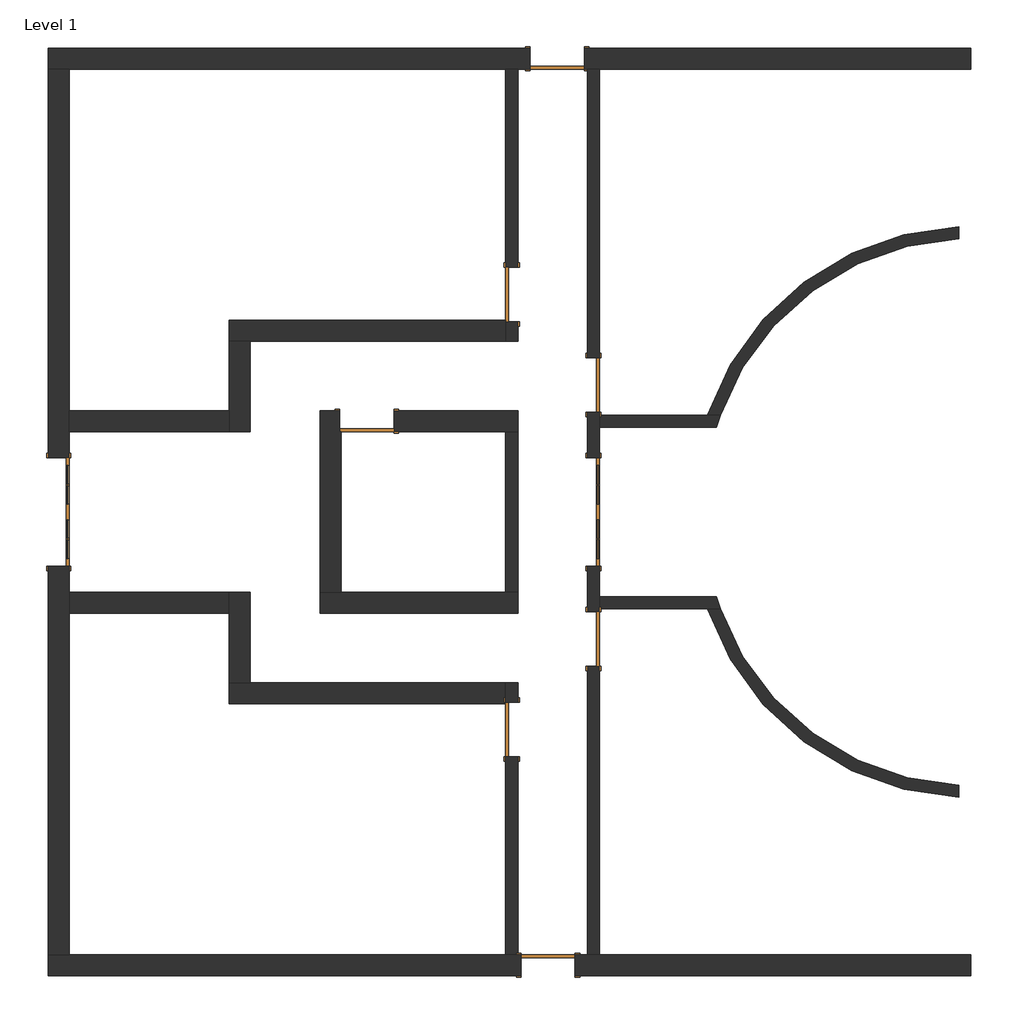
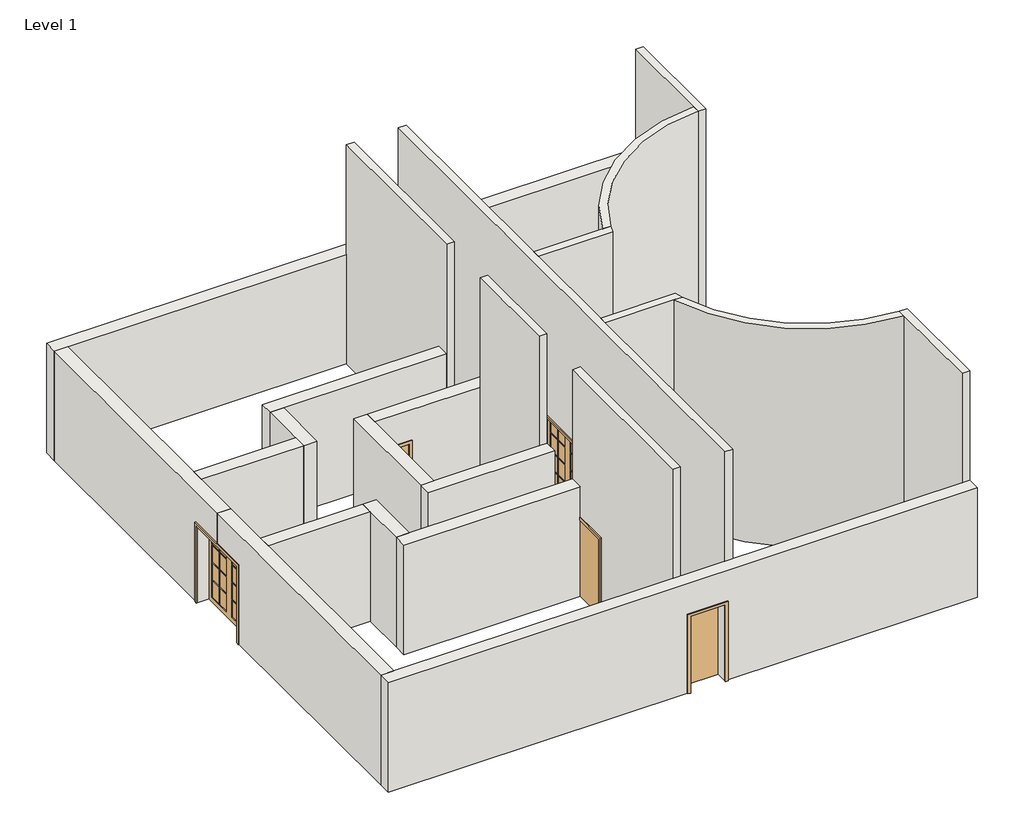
# One storey: 23 walls, 9 doors.
"""IFC4 building model written with IfcOpenShell, lengths in millimetres."""

from ifc_helpers import new_model, si_unit, point, frame, frame_2d, origin, origin_with_axes, place, context, project, spatial, polyline, circle_curve, trimmed, segment, composite_curve, outline, extrude, faceted_brep, transform, mapped, element, save
from ifc_brep_helpers import plane_surface, revolved_surface, advanced_brep
from components import door_62197d2a, door_0a477ef8, door_719f80de, door_54dd4da4, door_cc5399a4, door_632be17d

model = new_model("IFC4")

# Units and contexts
model_context = context("Model", 3, world=origin())
ifc_project = project(units=[si_unit("LENGTHUNIT", "METRE", prefix="MILLI")], contexts=[model_context])

# Site, building, storey
site = spatial("IfcSite", under=ifc_project)
building = spatial("IfcBuilding", under=site)
storey = spatial("IfcBuildingStorey", under=building, Name="Level 1", Elevation=0.0)

# Doors
placement = place(None, origin())
door_shape = door_62197d2a(model_context)
element("IfcDoor", 1, ObjectType="Double-Glass 2 : 72\" x 84\"", at=placement, inside=storey, context=model_context, shape_type="MappedRepresentation", body=[
    mapped(door_shape, transform((-6417.9006715, 3652.0803574, 0.0), x_axis=(0.0, -1.0, 0.0), y_axis=(1.0, 0.0, 0.0), z_axis=(0.0, 0.0, 1.0))),
])
door_2_shape = door_0a477ef8(model_context)
element("IfcDoor", 2, ObjectType="Double-Glass 2 : 72\" x 84\"", at=placement, inside=storey, context=model_context, shape_type="MappedRepresentation", body=[
    mapped(door_2_shape, transform((-15409.5006715, 3652.0803574, 0.0), x_axis=(0.0, -1.0, 0.0), y_axis=(1.0, 0.0, 0.0), z_axis=(0.0, 0.0, 1.0))),
])
door_3_shape = door_719f80de(model_context)
element("IfcDoor", 3, ObjectType="Single-Flush : 36\" x 84\"", at=placement, inside=storey, context=model_context, shape_type="MappedRepresentation", body=[
    mapped(door_3_shape, transform((-7789.5006715, 7309.6803574, 0.0), x_axis=(0.0, -1.0, 0.0), y_axis=(1.0, 0.0, 0.0), z_axis=(0.0, 0.0, 1.0))),
])
element("IfcDoor", 4, ObjectType="Single-Flush : 36\" x 84\"", at=placement, inside=storey, context=model_context, shape_type="MappedRepresentation", body=[
    mapped(door_3_shape, transform((-6417.9006715, 1518.4803574, 0.0), x_axis=(0.0, 1.0, 0.0), y_axis=(-1.0, 0.0, 0.0), z_axis=(0.0, 0.0, 1.0))),
])
door_4_shape = door_54dd4da4(model_context)
element("IfcDoor", 5, ObjectType="Single-Flush : 36\" x 84\"", at=placement, inside=storey, context=model_context, shape_type="MappedRepresentation", body=[
    mapped(door_4_shape, transform((-7789.5006715, -5.5196426, 0.0), x_axis=(0.0, 1.0, 0.0), y_axis=(-1.0, 0.0, 0.0), z_axis=(0.0, 0.0, 1.0))),
])
element("IfcDoor", 6, ObjectType="Single-Flush : 36\" x 84\"", at=placement, inside=storey, context=model_context, shape_type="MappedRepresentation", body=[
    mapped(door_4_shape, transform((-6417.9006715, 5785.6803574, 0.0), x_axis=(0.0, -1.0, 0.0), y_axis=(1.0, 0.0, 0.0), z_axis=(0.0, 0.0, 1.0))),
])
door_5_shape = door_cc5399a4(model_context)
element("IfcDoor", 7, ObjectType="Single-Flush : 36\" x 84\"", at=placement, inside=storey, context=model_context, shape_type="MappedRepresentation", body=[
    mapped(door_5_shape, transform((-7027.5006715, 11272.0803574, 0.0), x_axis=(1.0, 0.0, 0.0), y_axis=(0.0, 1.0, 0.0), z_axis=(0.0, 0.0, 1.0))),
])
element("IfcDoor", 8, ObjectType="Single-Flush : 36\" x 84\"", at=placement, inside=storey, context=model_context, shape_type="MappedRepresentation", body=[
    mapped(door_5_shape, transform((-7179.9006715, -3967.9196426, 0.0), x_axis=(-1.0, 0.0, 0.0), y_axis=(0.0, -1.0, 0.0), z_axis=(0.0, 0.0, 1.0))),
])
door_6_shape = door_632be17d(model_context)
element("IfcDoor", 9, ObjectType="Single-Flush : 36\" x 84\"", at=placement, inside=storey, context=model_context, shape_type="MappedRepresentation", body=[
    mapped(door_6_shape, transform((-10227.9006715, 5176.0803574, 0.0), x_axis=(-1.0, 0.0, 0.0), y_axis=(0.0, -1.0, 0.0), z_axis=(0.0, 0.0, 1.0))),
])

# Walls
element("IfcWall", 10, ObjectType="Exterior - Brick on Mtl. Stud", at=placement, inside=storey, context=model_context, shape_type="Brep", body=[
    faceted_brep([(-6570.3006715, 11095.8678574, 2133.6), (-6570.3006715, 11095.8678574, 0.0), (-6519.5006715, 11095.8678574, 0.0), (-6316.3006715, 11095.8678574, 0.0), (-271.1006715, 11095.8678574, 0.0), (-67.9006715, 11095.8678574, 0.0), (-67.9006715, 11095.8678574, 3048.0), (-15233.2881715, 11095.8678574, 3048.0), (-15585.7131715, 11095.8678574, 3048.0), (-15585.7131715, 11095.8678574, 0.0), (-15233.2881715, 11095.8678574, 0.0), (-7891.1006715, 11095.8678574, 0.0), (-7687.9006715, 11095.8678574, 0.0), (-7484.7006715, 11095.8678574, 0.0), (-7484.7006715, 11095.8678574, 2133.6), (-67.9006715, 11448.2928574, 0.0), (-6570.3006715, 11448.2928574, 0.0), (-6570.3006715, 11448.2928574, 2133.6), (-7484.7006715, 11448.2928574, 2133.6), (-7484.7006715, 11448.2928574, 0.0), (-15585.7131715, 11448.2928574, 0.0), (-15585.7131715, 11448.2928574, 3048.0), (-67.9006715, 11448.2928574, 3048.0)], [[[0, 1, 2, 3, 4, 5, 6, 7, 8, 9, 10, 11, 12, 13, 14]], [[15, 16, 17, 18, 19, 20, 21, 22]], [[5, 4, 3, 2, 1, 16, 15]], [[13, 12, 11, 10, 9, 20, 19]], [[8, 7, 6, 22, 21]], [[6, 5, 15, 22]], [[9, 8, 21, 20]], [[17, 16, 1, 0]], [[18, 17, 0, 14]], [[19, 18, 14, 13]]]),
])
element("IfcWall", 11, ObjectType="Exterior - Brick on Mtl. Stud", at=placement, inside=storey, context=model_context, shape_type="Brep", body=[
    faceted_brep([(-15585.7131715, 3652.0803574, 3048.0), (-15585.7131715, 11095.8678574, 3048.0), (-15585.7131715, 11095.8678574, 0.0), (-15585.7131715, 4566.4803574, 0.0), (-15585.7131715, 4566.4803574, 2133.6), (-15585.7131715, 3652.0803574, 2133.6), (-15233.2881715, 11095.8678574, 3048.0), (-15233.2881715, 5352.2928574, 3048.0), (-15233.2881715, 4999.8678574, 3048.0), (-15233.2881715, 3652.0803574, 3048.0), (-15233.2881715, 3652.0803574, 2133.6), (-15233.2881715, 4566.4803574, 2133.6), (-15233.2881715, 4566.4803574, 0.0), (-15233.2881715, 4999.8678574, 0.0), (-15233.2881715, 5352.2928574, 0.0), (-15233.2881715, 11095.8678574, 0.0)], [[[0, 1, 2, 3, 4, 5]], [[6, 7, 8, 9, 10, 11, 12, 13, 14, 15]], [[2, 15, 14, 13, 12, 3]], [[9, 0, 5, 10]], [[1, 0, 9, 8, 7, 6]], [[2, 1, 6, 15]], [[4, 11, 10, 5]], [[11, 4, 3, 12]]]),
])
element("IfcWall", 12, ObjectType="Exterior - Brick on Mtl. Stud", at=placement, inside=storey, context=model_context, shape_type="Brep", body=[
    faceted_brep([(-7891.1006715, 6876.2928574, 0.0), (-12537.7131715, 6876.2928574, 0.0), (-12537.7131715, 6876.2928574, 3048.0), (-7891.1006715, 6876.2928574, 3048.0), (-7891.1006715, 6523.8678574, 0.0), (-7891.1006715, 6523.8678574, 3048.0), (-12185.2881715, 6523.8678574, 3048.0), (-12537.7131715, 6523.8678574, 3048.0), (-12537.7131715, 6523.8678574, 0.0), (-12185.2881715, 6523.8678574, 0.0), (-7891.1006715, 6852.4803574, 0.0)], [[[0, 1, 2, 3]], [[4, 5, 6, 7, 8, 9]], [[1, 0, 10, 4, 9, 8]], [[3, 2, 7, 6, 5]], [[2, 1, 8, 7]], [[0, 3, 5, 4, 10]]]),
])
element("IfcWall", 13, ObjectType="Exterior - Brick on Mtl. Stud", at=placement, inside=storey, context=model_context, shape_type="Brep", body=[
    faceted_brep([(-12537.7131715, 6523.8678574, 0.0), (-12537.7131715, 5352.2928574, 0.0), (-12537.7131715, 4999.8678574, 0.0), (-12537.7131715, 4999.8678574, 3048.0), (-12537.7131715, 5352.2928574, 3048.0), (-12537.7131715, 6523.8678574, 3048.0), (-12185.2881715, 6523.8678574, 0.0), (-12185.2881715, 6523.8678574, 3048.0), (-12185.2881715, 4999.8678574, 3048.0), (-12185.2881715, 4999.8678574, 0.0)], [[[0, 1, 2, 3, 4, 5]], [[6, 7, 8, 9]], [[2, 1, 0, 6, 9]], [[5, 4, 3, 8, 7]], [[3, 2, 9, 8]], [[0, 5, 7, 6]]]),
])
element("IfcWall", 14, ObjectType="Exterior - Brick on Mtl. Stud", at=placement, inside=storey, context=model_context, shape_type="SweptSolid", body=[
    extrude(outline(polyline([(-15233.2881715, 5352.2928574), (-12537.7131715, 5352.2928574), (-12537.7131715, 4999.8678574), (-15233.2881715, 4999.8678574), (-15233.2881715, 5352.2928574)])), origin_with_axes(), (0.0, 0.0, 1.0), 3048.0),
])
element("IfcWall", 15, ObjectType="Exterior - Brick on Mtl. Stud", at=placement, inside=storey, context=model_context, shape_type="Brep", body=[
    faceted_brep([(-15585.7131715, -4144.1321426, 0.0), (-7637.1006715, -4144.1321426, 0.0), (-7637.1006715, -4144.1321426, 2133.6), (-6722.7006715, -4144.1321426, 2133.6), (-6722.7006715, -4144.1321426, 0.0), (-67.9006715, -4144.1321426, 0.0), (-67.9006715, -4144.1321426, 3048.0), (-15585.7131715, -4144.1321426, 3048.0), (-7637.1006715, -3791.7071426, 2133.6), (-7637.1006715, -3791.7071426, 0.0), (-7687.9006715, -3791.7071426, 0.0), (-7891.1006715, -3791.7071426, 0.0), (-15233.2881715, -3791.7071426, 0.0), (-15585.7131715, -3791.7071426, 0.0), (-15585.7131715, -3791.7071426, 3048.0), (-15233.2881715, -3791.7071426, 3048.0), (-67.9006715, -3791.7071426, 3048.0), (-67.9006715, -3791.7071426, 0.0), (-271.1006715, -3791.7071426, 0.0), (-6316.3006715, -3791.7071426, 0.0), (-6519.5006715, -3791.7071426, 0.0), (-6722.7006715, -3791.7071426, 0.0), (-6722.7006715, -3791.7071426, 2133.6)], [[[0, 1, 2, 3, 4, 5, 6, 7]], [[8, 9, 10, 11, 12, 13, 14, 15, 16, 17, 18, 19, 20, 21, 22]], [[13, 12, 11, 10, 9, 1, 0]], [[21, 20, 19, 18, 17, 5, 4]], [[7, 6, 16, 15, 14]], [[6, 5, 17, 16]], [[0, 7, 14, 13]], [[2, 1, 9, 8]], [[3, 2, 8, 22]], [[4, 3, 22, 21]]]),
])
element("IfcWall", 16, ObjectType="Exterior - Brick on Mtl. Stud", at=placement, inside=storey, context=model_context, shape_type="Brep", body=[
    faceted_brep([(-7891.1006715, 780.2928574, 0.0), (-12185.2881715, 780.2928574, 0.0), (-12537.7131715, 780.2928574, 0.0), (-12537.7131715, 780.2928574, 3048.0), (-12185.2881715, 780.2928574, 3048.0), (-7891.1006715, 780.2928574, 3048.0), (-7891.1006715, 427.8678574, 0.0), (-7891.1006715, 427.8678574, 3048.0), (-12537.7131715, 427.8678574, 3048.0), (-12537.7131715, 427.8678574, 0.0), (-7891.1006715, 451.6803574, 0.0)], [[[0, 1, 2, 3, 4, 5]], [[6, 7, 8, 9]], [[2, 1, 0, 10, 6, 9]], [[5, 4, 3, 8, 7]], [[3, 2, 9, 8]], [[0, 5, 7, 6, 10]]]),
])
element("IfcWall", 17, ObjectType="Exterior - Brick on Mtl. Stud", at=placement, inside=storey, context=model_context, shape_type="Brep", body=[
    faceted_brep([(-12185.2881715, 780.2928574, 0.0), (-12185.2881715, 2304.2928574, 0.0), (-12185.2881715, 2304.2928574, 3048.0), (-12185.2881715, 780.2928574, 3048.0), (-12537.7131715, 780.2928574, 0.0), (-12537.7131715, 780.2928574, 3048.0), (-12537.7131715, 1951.8678574, 3048.0), (-12537.7131715, 2304.2928574, 3048.0), (-12537.7131715, 2304.2928574, 0.0), (-12537.7131715, 1951.8678574, 0.0)], [[[0, 1, 2, 3]], [[4, 5, 6, 7, 8, 9]], [[1, 0, 4, 9, 8]], [[3, 2, 7, 6, 5]], [[2, 1, 8, 7]], [[0, 3, 5, 4]]]),
])
element("IfcWall", 18, ObjectType="Exterior - Brick on Mtl. Stud", at=placement, inside=storey, context=model_context, shape_type="SweptSolid", body=[
    extrude(outline(polyline([(-15233.2881715, 2304.2928574), (-12537.7131715, 2304.2928574), (-12537.7131715, 1951.8678574), (-15233.2881715, 1951.8678574), (-15233.2881715, 2304.2928574)])), origin_with_axes(), (0.0, 0.0, 1.0), 3048.0),
])
element("IfcWall", 19, ObjectType="Exterior - Brick on Mtl. Stud", at=placement, inside=storey, context=model_context, shape_type="Brep", body=[
    faceted_brep([(-15233.2881715, 3652.0803574, 3048.0), (-15233.2881715, 2304.2928574, 3048.0), (-15233.2881715, 1951.8678574, 3048.0), (-15233.2881715, -3791.7071426, 3048.0), (-15233.2881715, -3791.7071426, 0.0), (-15233.2881715, 1951.8678574, 0.0), (-15233.2881715, 2304.2928574, 0.0), (-15233.2881715, 2737.6803574, 0.0), (-15233.2881715, 2737.6803574, 2133.6), (-15233.2881715, 3652.0803574, 2133.6), (-15585.7131715, -3791.7071426, 3048.0), (-15585.7131715, 3652.0803574, 3048.0), (-15585.7131715, 3652.0803574, 2133.6), (-15585.7131715, 2737.6803574, 2133.6), (-15585.7131715, 2737.6803574, 0.0), (-15585.7131715, -3791.7071426, 0.0)], [[[0, 1, 2, 3, 4, 5, 6, 7, 8, 9]], [[10, 11, 12, 13, 14, 15]], [[4, 15, 14, 7, 6, 5]], [[11, 0, 9, 12]], [[3, 2, 1, 0, 11, 10]], [[4, 3, 10, 15]], [[13, 8, 7, 14]], [[8, 13, 12, 9]]]),
])
element("IfcWall", 20, ObjectType="Exterior - Brick on Mtl. Stud", at=placement, inside=storey, context=model_context, shape_type="Brep", body=[
    faceted_brep([(-10661.2881715, 5352.2928574, 3048.0), (-7687.9006715, 5352.2928574, 3048.0), (-7687.9006715, 5352.2928574, 0.0), (-9770.7006715, 5352.2928574, 0.0), (-9770.7006715, 5352.2928574, 2133.6), (-10661.2881715, 5352.2928574, 2133.6), (-7687.9006715, 4999.8678574, 3048.0), (-10661.2881715, 4999.8678574, 3048.0), (-10661.2881715, 4999.8678574, 2133.6), (-9770.7006715, 4999.8678574, 2133.6), (-9770.7006715, 4999.8678574, 0.0), (-7891.1006715, 4999.8678574, 0.0), (-7687.9006715, 4999.8678574, 0.0)], [[[0, 1, 2, 3, 4, 5]], [[6, 7, 8, 9, 10, 11, 12]], [[2, 12, 11, 10, 3]], [[1, 0, 7, 6]], [[2, 1, 6, 12]], [[7, 0, 5, 8]], [[4, 9, 8, 5]], [[9, 4, 3, 10]]]),
])
element("IfcWall", 21, ObjectType="Exterior - Brick on Mtl. Stud", at=placement, inside=storey, context=model_context, shape_type="Brep", body=[
    faceted_brep([(-10661.2881715, 5352.2928574, 3048.0), (-10661.2881715, 4999.8678574, 3048.0), (-10661.2881715, 2304.2928574, 3048.0), (-10661.2881715, 2304.2928574, 0.0), (-10661.2881715, 4999.8678574, 0.0), (-10661.2881715, 4999.8678574, 2133.6), (-10661.2881715, 5352.2928574, 2133.6), (-11013.7131715, 5352.2928574, 0.0), (-11013.7131715, 2304.2928574, 0.0), (-11013.7131715, 2304.2928574, 3048.0), (-11013.7131715, 5352.2928574, 3048.0), (-10685.1006715, 5352.2928574, 0.0), (-10685.1006715, 4999.8678574, 0.0), (-10685.1006715, 5352.2928574, 2133.6), (-10685.1006715, 4999.8678574, 2133.6)], [[[0, 1, 2, 3, 4, 5, 6]], [[7, 8, 9, 10]], [[8, 7, 11, 12, 4, 3]], [[2, 1, 0, 10, 9]], [[7, 10, 0, 6, 13, 11]], [[3, 2, 9, 8]], [[12, 14, 5, 4]], [[14, 12, 11, 13]], [[14, 13, 6, 5]]]),
])
element("IfcWall", 22, ObjectType="Exterior - Brick on Mtl. Stud", at=placement, inside=storey, context=model_context, shape_type="Brep", body=[
    faceted_brep([(-7687.9006715, 2304.2928574, 0.0), (-7891.1006715, 2304.2928574, 0.0), (-10661.2881715, 2304.2928574, 0.0), (-11013.7131715, 2304.2928574, 0.0), (-11013.7131715, 2304.2928574, 3048.0), (-10661.2881715, 2304.2928574, 3048.0), (-7687.9006715, 2304.2928574, 3048.0), (-7687.9006715, 1951.8678574, 0.0), (-7687.9006715, 1951.8678574, 3048.0), (-11013.7131715, 1951.8678574, 3048.0), (-11013.7131715, 1951.8678574, 0.0)], [[[0, 1, 2, 3, 4, 5, 6]], [[7, 8, 9, 10]], [[3, 2, 1, 0, 7, 10]], [[6, 5, 4, 9, 8]], [[0, 6, 8, 7]], [[4, 3, 10, 9]]]),
])
element("IfcWall", 23, ObjectType="Generic - 8\"", at=placement, inside=storey, context=model_context, shape_type="AdvancedBrep", body=[
    advanced_brep(
    [(-271.1006715, 11095.8678574, 0.0), (-271.1006715, 8443.2552344, 0.0), (-271.1006715, 8239.8673202, 0.0), (-271.1006715, 8239.8673202, 6096.0), (-271.1006715, 8443.2552344, 6096.0), (-271.1006715, 11095.8678574, 6096.0), (-67.9006715, 11095.8678574, 0.0), (-67.9006715, 11095.8678574, 3048.0), (-67.9006715, 11095.8678574, 6096.0), (-67.9006715, 8244.1803284, 6096.0), (-67.9006715, 8244.1803284, 0.0)],
    [
        (0, 1),
        (1, 2),
        (2, 3),
        (3, 4),
        (4, 5),
        (5, 0),
        (6, 7),
        (7, 8),
        (8, 9),
        (9, 10),
        (10, 6),
        (0, 6),
        (10, 2, circle_curve(frame((-74.6603731, 3773.7854391, 0.0), z_axis=(0.0, 0.0, 1.0), x_axis=(1.0, 0.0, 0.0)), 4470.4)),
        (3, 9, circle_curve(frame((-74.6603731, 3773.7854391, 6096.0), z_axis=(0.0, 0.0, -1.0), x_axis=(1.0, 0.0, 0.0)), 4470.4)),
        (8, 5),
    ],
    [
        plane_surface(frame((-271.1006715, 11272.0803574, 0.0), z_axis=(-1.0, 0.0, 0.0), x_axis=(0.0, -1.0, 0.0))),
        plane_surface(frame((-67.9006715, 11272.0803574, 0.0), z_axis=(1.0, 0.0, 0.0), x_axis=(0.0, 1.0, 0.0))),
        plane_surface(frame((-271.1006715, 11272.0803574, 0.0), z_axis=(0.0, 0.0, -1.0), x_axis=(1.0, 0.0, 0.0))),
        plane_surface(frame((-271.1006715, 8344.8016628, 6096.0), z_axis=(0.0, 0.0, 1.0), x_axis=(1.0, 0.0, 0.0))),
        revolved_surface(polyline([(4395.7396269, 3773.7854391, 0.0), (4395.7396269, 3773.7854391, 6096.0)]), (-74.6603731, 3773.7854391, 0.0), (0.0, 0.0, -1.0)),
        plane_surface(frame((-15409.5006715, 11095.8678574, 0.0), z_axis=(0.0, 1.0, 0.0), x_axis=(1.0, 0.0, 0.0))),
    ],
    [
        (0, [[1, 2, 3, 4, 5, 6]]),
        (1, [[7, 8, 9, 10, 11]]),
        (2, [[-2, -1, 12, -11, 13]]),
        (3, [[-5, -4, 14, -9, 15]]),
        (4, [[-3, -13, -10, -14]]),
        (5, [[-6, -15, -8, -7, -12]]),
    ],
),
])
element("IfcWall", 24, ObjectType="Generic - 8\"", at=placement, inside=storey, context=model_context, shape_type="Brep", body=[
    faceted_brep([(-7891.1006715, 6852.4803574, 2133.6), (-7891.1006715, 6852.4803574, 0.0), (-7891.1006715, 6523.8678574, 0.0), (-7891.1006715, 6523.8678574, 3048.0), (-7891.1006715, 6523.8678574, 6096.0), (-7891.1006715, 11095.8678574, 6096.0), (-7891.1006715, 11095.8678574, 0.0), (-7891.1006715, 7766.8803574, 0.0), (-7891.1006715, 7766.8803574, 2133.6), (-7687.9006715, 6523.8678574, 0.0), (-7687.9006715, 6852.4803574, 0.0), (-7687.9006715, 6852.4803574, 2133.6), (-7687.9006715, 7766.8803574, 2133.6), (-7687.9006715, 7766.8803574, 0.0), (-7687.9006715, 11095.8678574, 0.0), (-7687.9006715, 11095.8678574, 6096.0), (-7687.9006715, 6523.8678574, 6096.0)], [[[0, 1, 2, 3, 4, 5, 6, 7, 8]], [[9, 10, 11, 12, 13, 14, 15, 16]], [[2, 1, 10, 9]], [[7, 6, 14, 13]], [[5, 4, 16, 15]], [[4, 3, 2, 9, 16]], [[6, 5, 15, 14]], [[11, 10, 1, 0]], [[12, 11, 0, 8]], [[13, 12, 8, 7]]]),
])
element("IfcWall", 25, ObjectType="Generic - 8\"", at=placement, inside=storey, context=model_context, shape_type="AdvancedBrep", body=[
    advanced_brep(
    [(-4284.5031534, 5277.6803574, 0.0), (-4499.6843317, 5277.6803574, 0.0), (-6316.3006715, 5277.6803574, 0.0), (-6316.3006715, 5277.6803574, 6096.0), (-4499.6843317, 5277.6803574, 6096.0), (-4284.5031534, 5277.6803574, 6096.0), (-4351.6533459, 5074.4803574, 0.0), (-4351.6533459, 5074.4803574, 6096.0), (-6316.3006715, 5074.4803574, 6096.0), (-6316.3006715, 5074.4803574, 0.0)],
    [
        (0, 1),
        (1, 2),
        (2, 3),
        (3, 4),
        (4, 5),
        (5, 0),
        (6, 7),
        (7, 8),
        (8, 9),
        (9, 6),
        (0, 6, circle_curve(frame((-74.6603731, 3773.7854391, 0.0), z_axis=(0.0, 0.0, 1.0), x_axis=(1.0, 0.0, 0.0)), 4470.4)),
        (9, 2),
        (3, 8),
        (7, 5, circle_curve(frame((-74.6603731, 3773.7854391, 6096.0), z_axis=(0.0, 0.0, -1.0), x_axis=(1.0, 0.0, 0.0)), 4470.4)),
    ],
    [
        plane_surface(frame((-3369.9006715, 5277.6803574, 0.0), z_axis=(0.0, 1.0, 0.0), x_axis=(-1.0, 0.0, 0.0))),
        plane_surface(frame((-3369.9006715, 5074.4803574, 0.0), z_axis=(0.0, -1.0, 0.0), x_axis=(1.0, 0.0, 0.0))),
        plane_surface(frame((-4426.2983362, 5277.6803574, 0.0), z_axis=(0.0, 0.0, -1.0), x_axis=(0.0, -1.0, 0.0))),
        plane_surface(frame((-6417.9006715, 5277.6803574, 6096.0), z_axis=(0.0, 0.0, 1.0), x_axis=(0.0, -1.0, 0.0))),
        revolved_surface(polyline([(4395.7396269, 3773.7854391, 0.0), (4395.7396269, 3773.7854391, 6096.0)]), (-74.6603731, 3773.7854391, 0.0), (0.0, 0.0, -1.0)),
        plane_surface(frame((-6316.3006715, -3967.9196426, 0.0), z_axis=(-1.0, 0.0, 0.0), x_axis=(0.0, 1.0, 0.0))),
    ],
    [
        (0, [[1, 2, 3, 4, 5, 6]]),
        (1, [[7, 8, 9, 10]]),
        (2, [[-2, -1, 11, -10, 12]]),
        (3, [[-5, -4, 13, -8, 14]]),
        (4, [[-6, -14, -7, -11]]),
        (5, [[-3, -12, -9, -13]]),
    ],
),
])
element("IfcWall", 26, ObjectType="Generic - 8\"", at=placement, inside=storey, context=model_context, shape_type="AdvancedBrep", body=[
    advanced_brep(
    [(-67.9006715, -3791.7071426, 0.0), (-67.9006715, -940.0196137, 0.0), (-67.9006715, -940.0196137, 6096.0), (-67.9006715, -3791.7071426, 6096.0), (-67.9006715, -3791.7071426, 3048.0), (-271.1006715, -3791.7071426, 0.0), (-271.1006715, -3791.7071426, 6096.0), (-271.1006715, -1139.0945197, 6096.0), (-271.1006715, -935.7066055, 6096.0), (-271.1006715, -935.7066055, 0.0), (-271.1006715, -1139.0945197, 0.0)],
    [
        (0, 1),
        (1, 2),
        (2, 3),
        (3, 4),
        (4, 0),
        (5, 6),
        (6, 7),
        (7, 8),
        (8, 9),
        (9, 10),
        (10, 5),
        (0, 5),
        (9, 1, circle_curve(frame((-74.6603731, 3530.3752756, 0.0), z_axis=(0.0, 0.0, 1.0), x_axis=(1.0, 0.0, 0.0)), 4470.4)),
        (2, 8, circle_curve(frame((-74.6603731, 3530.3752756, 6096.0), z_axis=(0.0, 0.0, -1.0), x_axis=(1.0, 0.0, 0.0)), 4470.4)),
        (6, 3),
    ],
    [
        plane_surface(frame((-67.9006715, -3967.9196426, 0.0), z_axis=(1.0, 0.0, 0.0), x_axis=(0.0, 1.0, 0.0))),
        plane_surface(frame((-271.1006715, -3967.9196426, 0.0), z_axis=(-1.0, 0.0, 0.0), x_axis=(0.0, -1.0, 0.0))),
        plane_surface(frame((-67.9006715, -3967.9196426, 0.0), z_axis=(0.0, 0.0, -1.0), x_axis=(-1.0, 0.0, 0.0))),
        plane_surface(frame((-67.9006715, -1040.6409481, 6096.0), z_axis=(0.0, 0.0, 1.0), x_axis=(-1.0, 0.0, 0.0))),
        revolved_surface(polyline([(4395.7396269, 3530.3752756, 0.0), (4395.7396269, 3530.3752756, 6096.0)]), (-74.6603731, 3530.3752756, 0.0), (0.0, 0.0, -1.0)),
        plane_surface(frame((-15409.5006715, -3791.7071426, 0.0), z_axis=(0.0, -1.0, 0.0), x_axis=(-1.0, 0.0, 0.0))),
    ],
    [
        (0, [[1, 2, 3, 4, 5]]),
        (1, [[6, 7, 8, 9, 10, 11]]),
        (2, [[-1, 12, -11, -10, 13]]),
        (3, [[-3, 14, -8, -7, 15]]),
        (4, [[-2, -13, -9, -14]]),
        (5, [[-5, -4, -15, -6, -12]]),
    ],
),
])
element("IfcWall", 27, ObjectType="Generic - 8\"", at=placement, inside=storey, context=model_context, shape_type="Brep", body=[
    faceted_brep([(-6316.3006715, 1975.6803574, 2133.6), (-6316.3006715, 1975.6803574, 0.0), (-6316.3006715, 2026.4803574, 0.0), (-6316.3006715, 2229.6803574, 0.0), (-6316.3006715, 2737.6803574, 0.0), (-6316.3006715, 2737.6803574, 2133.6), (-6316.3006715, 4566.4803574, 2133.6), (-6316.3006715, 4566.4803574, 0.0), (-6316.3006715, 5074.4803574, 0.0), (-6316.3006715, 5277.6803574, 0.0), (-6316.3006715, 5328.4803574, 0.0), (-6316.3006715, 5328.4803574, 2133.6), (-6316.3006715, 6242.8803574, 2133.6), (-6316.3006715, 6242.8803574, 0.0), (-6316.3006715, 11095.8678574, 0.0), (-6316.3006715, 11095.8678574, 6096.0), (-6316.3006715, 5277.6803574, 6096.0), (-6316.3006715, 5074.4803574, 6096.0), (-6316.3006715, 2229.6803574, 6096.0), (-6316.3006715, 2026.4803574, 6096.0), (-6316.3006715, -3791.7071426, 6096.0), (-6316.3006715, -3791.7071426, 0.0), (-6316.3006715, 1061.2803574, 0.0), (-6316.3006715, 1061.2803574, 2133.6), (-6519.5006715, 2737.6803574, 0.0), (-6519.5006715, 1975.6803574, 0.0), (-6519.5006715, 1975.6803574, 2133.6), (-6519.5006715, 1061.2803574, 2133.6), (-6519.5006715, 1061.2803574, 0.0), (-6519.5006715, -3791.7071426, 0.0), (-6519.5006715, -3791.7071426, 6096.0), (-6519.5006715, 11095.8678574, 6096.0), (-6519.5006715, 11095.8678574, 0.0), (-6519.5006715, 6242.8803574, 0.0), (-6519.5006715, 6242.8803574, 2133.6), (-6519.5006715, 5328.4803574, 2133.6), (-6519.5006715, 5328.4803574, 0.0), (-6519.5006715, 4566.4803574, 0.0), (-6519.5006715, 4566.4803574, 2133.6), (-6519.5006715, 2737.6803574, 2133.6)], [[[0, 1, 2, 3, 4, 5, 6, 7, 8, 9, 10, 11, 12, 13, 14, 15, 16, 17, 18, 19, 20, 21, 22, 23]], [[24, 25, 26, 27, 28, 29, 30, 31, 32, 33, 34, 35, 36, 37, 38, 39]], [[4, 3, 2, 1, 25, 24]], [[37, 36, 10, 9, 8, 7]], [[33, 32, 14, 13]], [[22, 21, 29, 28]], [[20, 19, 18, 17, 16, 15, 31, 30]], [[21, 20, 30, 29]], [[15, 14, 32, 31]], [[5, 4, 24, 39]], [[6, 5, 39, 38]], [[7, 6, 38, 37]], [[11, 10, 36, 35]], [[12, 11, 35, 34]], [[13, 12, 34, 33]], [[26, 25, 1, 0]], [[27, 26, 0, 23]], [[28, 27, 23, 22]]]),
])
element("IfcWall", 28, ObjectType="Generic - 8\"", at=placement, inside=storey, context=model_context, shape_type="Brep", body=[
    faceted_brep([(-7687.9006715, 451.6803574, 2133.6), (-7687.9006715, 451.6803574, 0.0), (-7687.9006715, 780.2928574, 0.0), (-7687.9006715, 780.2928574, 6096.0), (-7687.9006715, -3791.7071426, 6096.0), (-7687.9006715, -3791.7071426, 0.0), (-7687.9006715, -462.7196426, 0.0), (-7687.9006715, -462.7196426, 2133.6), (-7891.1006715, 780.2928574, 0.0), (-7891.1006715, 451.6803574, 0.0), (-7891.1006715, 451.6803574, 2133.6), (-7891.1006715, -462.7196426, 2133.6), (-7891.1006715, -462.7196426, 0.0), (-7891.1006715, -3791.7071426, 0.0), (-7891.1006715, -3791.7071426, 6096.0), (-7891.1006715, 780.2928574, 6096.0), (-7891.1006715, 780.2928574, 3048.0)], [[[0, 1, 2, 3, 4, 5, 6, 7]], [[8, 9, 10, 11, 12, 13, 14, 15, 16]], [[2, 1, 9, 8]], [[6, 5, 13, 12]], [[4, 3, 15, 14]], [[3, 2, 8, 16, 15]], [[5, 4, 14, 13]], [[10, 9, 1, 0]], [[11, 10, 0, 7]], [[12, 11, 7, 6]]]),
])
element("IfcWall", 29, ObjectType="Generic - 8\"", at=placement, inside=storey, context=model_context, shape_type="AdvancedBrep", body=[
    advanced_brep(
    [(-4351.6533459, 2229.6803574, 0.0), (-6316.3006715, 2229.6803574, 0.0), (-6316.3006715, 2229.6803574, 6096.0), (-4351.6533459, 2229.6803574, 6096.0), (-4284.5031534, 2026.4803574, 0.0), (-4284.5031534, 2026.4803574, 6096.0), (-4499.6843317, 2026.4803574, 6096.0), (-6316.3006715, 2026.4803574, 6096.0), (-6316.3006715, 2026.4803574, 0.0), (-4499.6843317, 2026.4803574, 0.0)],
    [
        (0, 1),
        (1, 2),
        (2, 3),
        (3, 0),
        (4, 5),
        (5, 6),
        (6, 7),
        (7, 8),
        (8, 9),
        (9, 4),
        (0, 4, circle_curve(frame((-74.6603731, 3530.3752756, 0.0), z_axis=(0.0, 0.0, 1.0), x_axis=(1.0, 0.0, 0.0)), 4470.4)),
        (8, 1),
        (2, 7),
        (5, 3, circle_curve(frame((-74.6603731, 3530.3752756, 6096.0), z_axis=(0.0, 0.0, -1.0), x_axis=(1.0, 0.0, 0.0)), 4470.4)),
    ],
    [
        plane_surface(frame((-3369.9006715, 2229.6803574, 0.0), z_axis=(0.0, 1.0, 0.0), x_axis=(-1.0, 0.0, 0.0))),
        plane_surface(frame((-3369.9006715, 2026.4803574, 0.0), z_axis=(0.0, -1.0, 0.0), x_axis=(1.0, 0.0, 0.0))),
        plane_surface(frame((-4426.2983362, 2229.6803574, 0.0), z_axis=(0.0, 0.0, -1.0), x_axis=(0.0, -1.0, 0.0))),
        plane_surface(frame((-6417.9006715, 2229.6803574, 6096.0), z_axis=(0.0, 0.0, 1.0), x_axis=(0.0, -1.0, 0.0))),
        revolved_surface(polyline([(4395.7396269, 3530.3752756, 0.0), (4395.7396269, 3530.3752756, 6096.0)]), (-74.6603731, 3530.3752756, 0.0), (0.0, 0.0, -1.0)),
        plane_surface(frame((-6316.3006715, -3967.9196426, 0.0), z_axis=(-1.0, 0.0, 0.0), x_axis=(0.0, 1.0, 0.0))),
    ],
    [
        (0, [[1, 2, 3, 4]]),
        (1, [[5, 6, 7, 8, 9, 10]]),
        (2, [[-1, 11, -10, -9, 12]]),
        (3, [[-3, 13, -7, -6, 14]]),
        (4, [[-4, -14, -5, -11]]),
        (5, [[-2, -12, -8, -13]]),
    ],
),
])
element("IfcWall", 30, ObjectType="Generic - 8\"", at=placement, inside=storey, context=model_context, shape_type="Brep", body=[
    faceted_brep([(-7687.9006715, 2304.2928574, 0.0), (-7687.9006715, 4999.8678574, 0.0), (-7687.9006715, 4999.8678574, 3048.0), (-7687.9006715, 4999.8678574, 6096.0), (-7687.9006715, 2304.2928574, 6096.0), (-7687.9006715, 2304.2928574, 3048.0), (-7891.1006715, 2304.2928574, 0.0), (-7891.1006715, 2304.2928574, 6096.0), (-7891.1006715, 4999.8678574, 6096.0), (-7891.1006715, 4999.8678574, 0.0)], [[[0, 1, 2, 3, 4, 5]], [[6, 7, 8, 9]], [[1, 0, 6, 9]], [[4, 3, 8, 7]], [[3, 2, 1, 9, 8]], [[0, 5, 4, 7, 6]]]),
])
element("IfcWall", 31, ObjectType="Generic - 8\"", at=placement, inside=storey, context=model_context, shape_type="SweptSolid", body=[
    extrude(outline(composite_curve([segment(polyline([(-4284.5031534, 5277.6803574), (-4499.6843317, 5277.6803574)]), True, "CONTINUOUS"), segment(trimmed(circle_curve(frame_2d((-74.6603731, 3773.7854391)), 4673.6), [point((-4499.6843317, 5277.6803574))], [point((-271.1006715, 8443.2552344))], False, "CARTESIAN"), True, "CONTINUOUS"), segment(polyline([(-271.1006715, 8443.2552344), (-271.1006715, 8239.8673202)]), True, "CONTINUOUS"), segment(trimmed(circle_curve(frame_2d((-74.6603731, 3773.7854391)), 4470.4), [point((-271.1006715, 8239.8673202))], [point((-4284.5031534, 5277.6803574))], True, "CARTESIAN"), True, "CONTINUOUS")], self_intersect=False)), origin_with_axes(), (0.0, 0.0, 1.0), 6096.0),
])
element("IfcWall", 32, ObjectType="Generic - 8\"", at=placement, inside=storey, context=model_context, shape_type="SweptSolid", body=[
    extrude(outline(composite_curve([segment(polyline([(-4499.6843317, 2026.4803574), (-4284.5031534, 2026.4803574)]), True, "CONTINUOUS"), segment(trimmed(circle_curve(frame_2d((-74.6603731, 3530.3752756)), 4470.4), [point((-4284.5031534, 2026.4803574))], [point((-271.1006715, -935.7066055))], True, "CARTESIAN"), True, "CONTINUOUS"), segment(polyline([(-271.1006715, -935.7066055), (-271.1006715, -1139.0945197)]), True, "CONTINUOUS"), segment(trimmed(circle_curve(frame_2d((-74.6603731, 3530.3752756)), 4673.6), [point((-271.1006715, -1139.0945197))], [point((-4499.6843317, 2026.4803574))], False, "CARTESIAN"), True, "CONTINUOUS")], self_intersect=False)), origin_with_axes(), (0.0, 0.0, 1.0), 6096.0),
])

save(model, "model.ifc")
